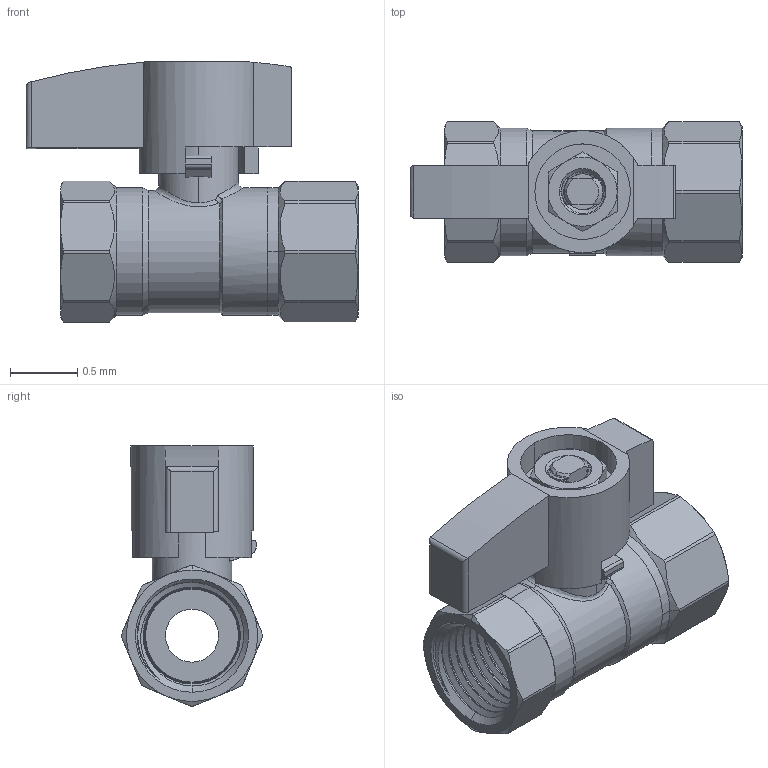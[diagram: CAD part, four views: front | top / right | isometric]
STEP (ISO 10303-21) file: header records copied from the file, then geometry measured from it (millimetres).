
FILE_DESCRIPTION(('Open CASCADE Model'),'2;1');
FILE_NAME('Open CASCADE Shape Model','2022-08-04T08:03:00',('Author'),( 'Open CASCADE'),'Open CASCADE STEP processor 7.3','Open CASCADE 7.3' ,'Unknown');
FILE_SCHEMA(('AUTOMOTIVE_DESIGN { 1 0 10303 214 1 1 1 1 }'));
Length unit declared in the file: millimetre
Products named in the file (12): Open CASCADE STEP translator 7.3 1; Open CASCADE STEP translator 7.3 1.1; Open CASCADE STEP translator 7.3 1.2; Open CASCADE STEP translator 7.3 1.3; Open CASCADE STEP translator 7.3 1.4; Open CASCADE STEP translator 7.3 1.5; Open CASCADE STEP translator 7.3 1.6; Open CASCADE STEP translator 7.3 1.7; Open CASCADE STEP translator 7.3 1.8; Open CASCADE STEP translator 7.3 1.9; Open CASCADE STEP translator 7.3 1.10; Open CASCADE STEP translator 7.3 1.11
Assembly tree (11 placements, depth 2):
  Open CASCADE STEP translator 7.3 1
    Open CASCADE STEP translator 7.3 1.1
    Open CASCADE STEP translator 7.3 1.2
    Open CASCADE STEP translator 7.3 1.3
    Open CASCADE STEP translator 7.3 1.4
    Open CASCADE STEP translator 7.3 1.5
    Open CASCADE STEP translator 7.3 1.6
    Open CASCADE STEP translator 7.3 1.7
    Open CASCADE STEP translator 7.3 1.8
    Open CASCADE STEP translator 7.3 1.9
    Open CASCADE STEP translator 7.3 1.10
    Open CASCADE STEP translator 7.3 1.11
Bounding box: 2.46 x 1.04 x 1.93 mm (x, y, z)
Volume: 1.5 mm3; surface area: 33.6 mm2
Topology: 11 solids, 11 shells, 502 faces, 1320 edges, 855 vertices
Faces by surface type: cylinder 169, plane 125, cone 110, bspline 80, torus 16, sphere 2
Entity records: 100124 total; most frequent: CARTESIAN_POINT 76788, DIRECTION 3425, ORIENTED_EDGE 2636, PCURVE 2636, DEFINITIONAL_REPRESENTATION 2636, LINE 1732, VECTOR 1732, B_SPLINE_CURVE_WITH_KNOTS 1473
